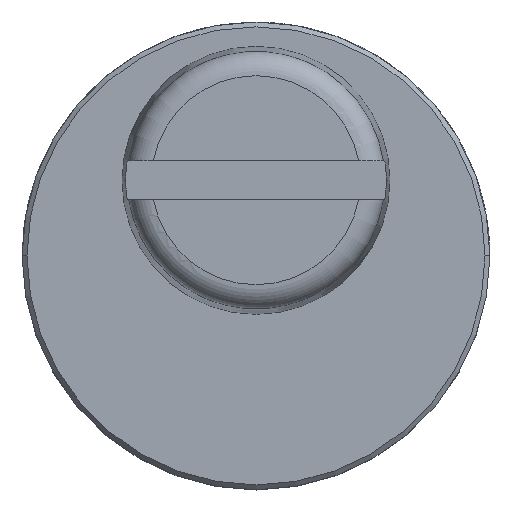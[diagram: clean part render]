
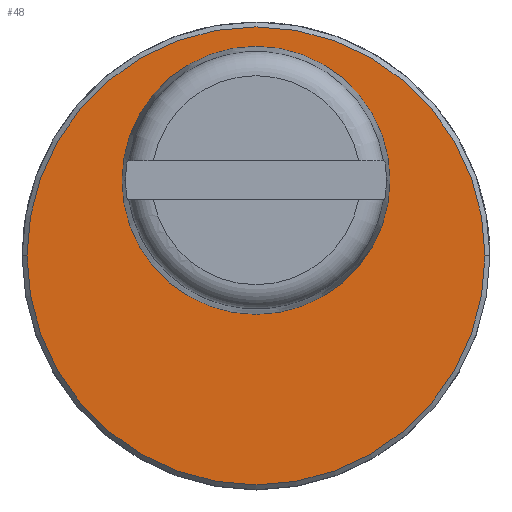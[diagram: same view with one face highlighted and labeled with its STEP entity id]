
A CAD part, top view. The second image highlights one B-rep face of the part: STEP entity #48.
In plain terms, the highlighted planar face has unit normal (0, 0, 1) as drawn and (0, 0, -1) by its records, which use the part's own axes.
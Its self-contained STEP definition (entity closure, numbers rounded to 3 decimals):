
#1 = AXIS2_PLACEMENT_3D ( 'NONE', #817, #327, #655 ) ;
#21 = EDGE_LOOP ( 'NONE', ( #611, #823 ) ) ;
#25 = CARTESIAN_POINT ( 'NONE',  ( 0., 0., 0. ) ) ;
#37 = CIRCLE ( 'NONE', #1, 1.9 ) ;
#48 = ADVANCED_FACE ( 'NONE', ( #743, #254 ), #440, .F. ) ;
#122 = VERTEX_POINT ( 'NONE', #141 ) ;
#141 = CARTESIAN_POINT ( 'NONE',  ( -1.9, -1.55, 0. ) ) ;
#196 = DIRECTION ( 'NONE',  ( 1., 0., 0. ) ) ;
#206 = VERTEX_POINT ( 'NONE', #893 ) ;
#220 = EDGE_CURVE ( 'NONE', #122, #690, #1053, .T. ) ;
#226 = EDGE_CURVE ( 'NONE', #515, #206, #488, .T. ) ;
#254 = FACE_BOUND ( 'NONE', #819, .T. ) ;
#293 = ORIENTED_EDGE ( 'NONE', *, *, #220, .T. ) ;
#321 = DIRECTION ( 'NONE',  ( 0., 0., 1. ) ) ;
#324 = AXIS2_PLACEMENT_3D ( 'NONE', #890, #399, #486 ) ;
#327 = DIRECTION ( 'NONE',  ( 0., 0., 1. ) ) ;
#360 = EDGE_CURVE ( 'NONE', #206, #515, #582, .T. ) ;
#370 = DIRECTION ( 'NONE',  ( 1., 0., 0. ) ) ;
#399 = DIRECTION ( 'NONE',  ( 0., 0., -1. ) ) ;
#440 = PLANE ( 'NONE',  #932 ) ;
#479 = CARTESIAN_POINT ( 'NONE',  ( 0., -1.55, 0. ) ) ;
#486 = DIRECTION ( 'NONE',  ( 1., 0., 0. ) ) ;
#488 = CIRCLE ( 'NONE', #324, 4.7 ) ;
#510 = DIRECTION ( 'NONE',  ( 0., 0., -1. ) ) ;
#515 = VERTEX_POINT ( 'NONE', #610 ) ;
#524 = ORIENTED_EDGE ( 'NONE', *, *, #730, .T. ) ;
#582 = CIRCLE ( 'NONE', #657, 4.7 ) ;
#610 = CARTESIAN_POINT ( 'NONE',  ( 4.7, 0., 0. ) ) ;
#611 = ORIENTED_EDGE ( 'NONE', *, *, #226, .T. ) ;
#655 = DIRECTION ( 'NONE',  ( 1., 0., 0. ) ) ;
#657 = AXIS2_PLACEMENT_3D ( 'NONE', #918, #510, #196 ) ;
#690 = VERTEX_POINT ( 'NONE', #886 ) ;
#730 = EDGE_CURVE ( 'NONE', #690, #122, #37, .T. ) ;
#743 = FACE_OUTER_BOUND ( 'NONE', #21, .T. ) ;
#817 = CARTESIAN_POINT ( 'NONE',  ( 0., -1.55, 0. ) ) ;
#819 = EDGE_LOOP ( 'NONE', ( #293, #524 ) ) ;
#823 = ORIENTED_EDGE ( 'NONE', *, *, #360, .T. ) ;
#877 = DIRECTION ( 'NONE',  ( 0., 0., 1. ) ) ;
#886 = CARTESIAN_POINT ( 'NONE',  ( 1.9, -1.55, 0. ) ) ;
#888 = DIRECTION ( 'NONE',  ( 1., 0., 0. ) ) ;
#890 = CARTESIAN_POINT ( 'NONE',  ( 0., 0., 0. ) ) ;
#893 = CARTESIAN_POINT ( 'NONE',  ( -4.7, 0., 0. ) ) ;
#918 = CARTESIAN_POINT ( 'NONE',  ( 0., 0., 0. ) ) ;
#932 = AXIS2_PLACEMENT_3D ( 'NONE', #25, #877, #370 ) ;
#987 = AXIS2_PLACEMENT_3D ( 'NONE', #479, #321, #888 ) ;
#1053 = CIRCLE ( 'NONE', #987, 1.9 ) ;
